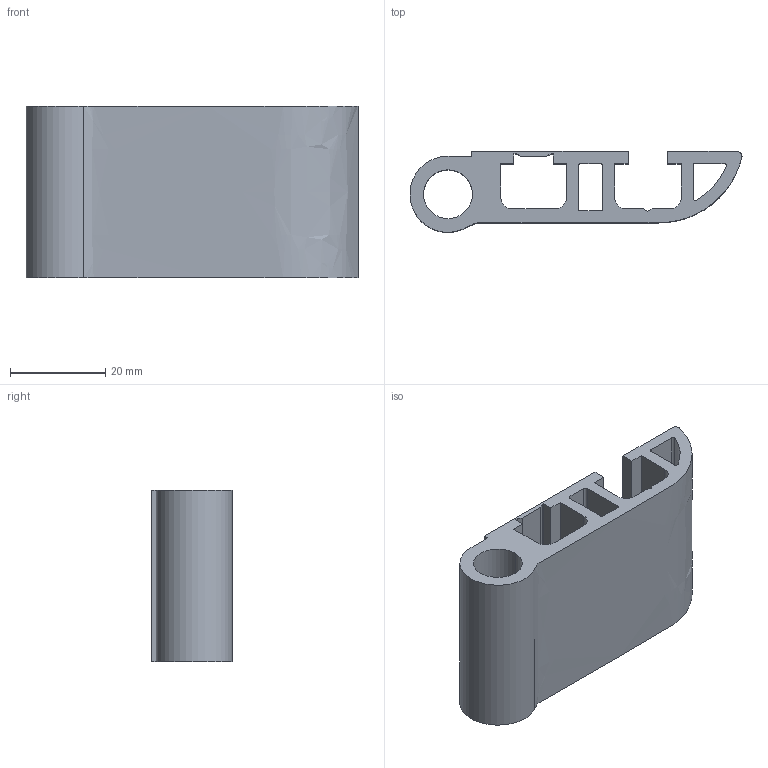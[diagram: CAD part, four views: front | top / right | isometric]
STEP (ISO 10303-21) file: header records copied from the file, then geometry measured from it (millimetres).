
FILE_DESCRIPTION (( 'STEP AP203' ), '1' );
FILE_NAME ('013.100.035.STEP', '2021-11-15T13:40:48', ( '' ), ( '' ), 'SwSTEP 2.0', 'SolidWorks 2018', '' );
FILE_SCHEMA (( 'CONFIG_CONTROL_DESIGN' ));
Length unit declared in the file: millimetre
Products named in the file (1): 013.100.035
Bounding box: 69.75 x 16.99 x 36 mm (x, y, z)
Volume: 18027.1 mm3; surface area: 12685.9 mm2
Topology: 1 solids, 1 shells, 59 faces, 174 edges, 116 vertices
Faces by surface type: plane 37, cylinder 21, bspline 1
Entity records: 2105 total; most frequent: CARTESIAN_POINT 407, ORIENTED_EDGE 348, DIRECTION 328, EDGE_CURVE 174, LINE 126, VECTOR 126, VERTEX_POINT 116, AXIS2_PLACEMENT_3D 101
